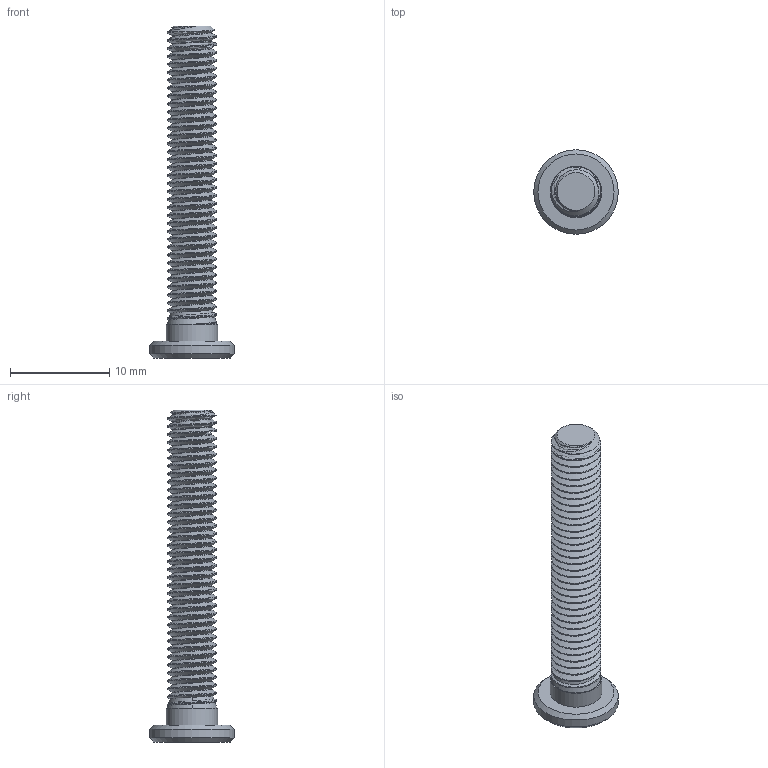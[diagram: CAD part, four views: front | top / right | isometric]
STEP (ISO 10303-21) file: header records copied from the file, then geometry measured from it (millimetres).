
FILE_DESCRIPTION(/* description */ (''),/* implementation_level */ '2;1');
FILE_NAME(/* name */ 'M5x30mm Bolt (x axis end pulley & y axis end ).step',/* time_stamp */ '2025-04-22T13:03:56+05:30',/* author */ (''),/* organization */ (''),/* preprocessor_version */ 'ST-DEVELOPER v20.1',/* originating_system */ 'Autodesk Translation Framework v14.4.0.0',/* authorisation */ '');
FILE_SCHEMA (('AUTOMOTIVE_DESIGN { 1 0 10303 214 3 1 1 }'));
Length unit declared in the file: millimetre
Products named in the file (1): M5x30mm Bolt (x axis end pulley & y axis end )
Bounding box: 8.5 x 8.5 x 33.4 mm (x, y, z)
Volume: 591.9 mm3; surface area: 911.8 mm2
Topology: 1 solids, 1 shells, 101 faces, 273 edges, 177 vertices
Faces by surface type: cylinder 76, cone 12, plane 11, bspline 2
Full cylindrical faces by diameter (mm): 3.961 x34, 5 x36, 5.2 x1, 8.5 x1
Entity records: 10095 total; most frequent: CARTESIAN_POINT 7838, ORIENTED_EDGE 546, DIRECTION 331, EDGE_CURVE 273, VERTEX_POINT 177, B_SPLINE_CURVE_WITH_KNOTS 156, AXIS2_PLACEMENT_3D 120, EDGE_LOOP 104
